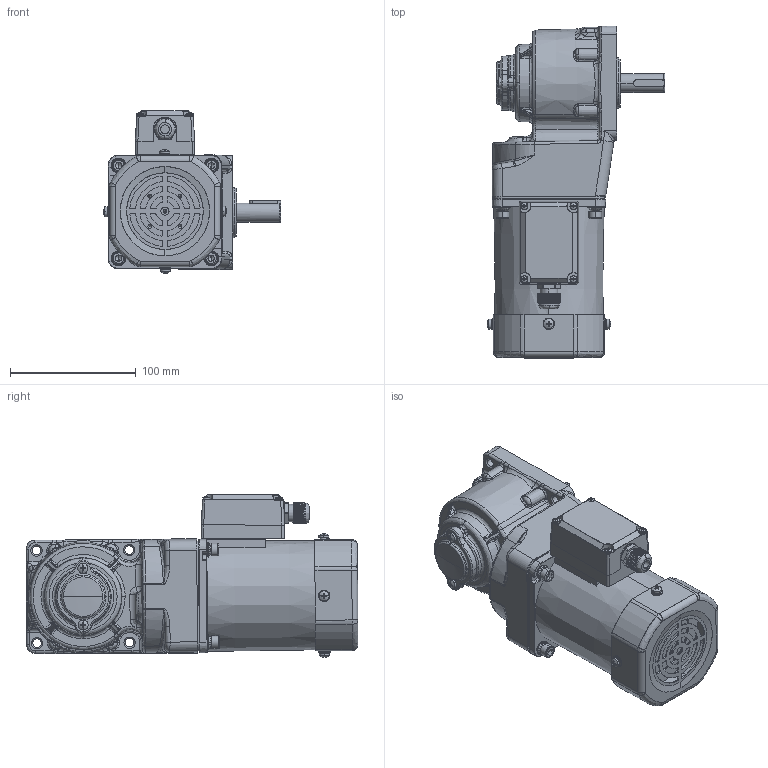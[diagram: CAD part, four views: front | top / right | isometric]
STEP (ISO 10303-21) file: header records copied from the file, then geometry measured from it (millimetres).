
FILE_DESCRIPTION (( 'STEP AP203' ), '1' );
FILE_NAME ('5RK60GU-CFT(5GU3RT-180RT)ÐÂ.STEP', '2023-08-17T07:17:44', ( 'Windows User' ), ( 'P R C' ), 'SwSTEP 2.0', 'SolidWorks 2019', '' );
FILE_SCHEMA (( 'CONFIG_CONTROL_DESIGN' ));
Length unit declared in the file: millimetre
Products named in the file (10): 5RK60GU-CFT(5GU3RT-180RT)陔(2)^5RK60GU-CFT(5GU3RT-180RT)陔; 90__________^5RK60GU-CFT(5GU3RT-180RT)陔(2)_5RK60GU-CFT(5GU3RT-180RT)陔; 90____^5RK60GU-CFT(5GU3RT-180RT)陔(2)_5RK60GU-CFT(5GU3RT-180RT)陔; ZD-5GU50RC-505-003______^5RK60GU-CFT(5GU3RT-180RT)陔(2)_5RK60GU-CFT(5GU3RT-180RT)陔; 5RK60GU-CFT(5GU3RT-180RT)陔; cross recessed pan head screws gb_GB_CROSS_SCREWS_TYPE1 M4X6-6  H type-N^5RK60GU-CFT(5GU3RT-180RT)ÐÂ(2)_5RK60GU-CFT(5GU3RT-180RT)ÐÂ; 5RK60GU-CFT(5GU3RT-180RT)^5RK60GU-CFT(5GU3RT-180RT)ÐÂ(2)_5RK60GU-CFT(5GU3RT-180RT)ÐÂ; zd-5gu-50rc-504-001m#________ 2021-12-07 - ____^5RK60GU-CFT(5GU3RT-180RT)ÐÂ(2)_5RK60GU-CFT(5GU3RT-180RT)ÐÂ; hexagon socket head cap screws gb_GB_FASTENER_SCREWS_HSHCS M5X12-N^5RK60GU-CFT(5GU3RT-180RT)ÐÂ(2)_5RK60GU-CFT(5GU3RT-180RT)ÐÂ; 90RT____________^5RK60GU-CFT(5GU3RT-180RT)陔(2)_5RK60GU-CFT(5GU3RT-180RT)陔
Assembly tree (13 placements, depth 3):
  5RK60GU-CFT(5GU3RT-180RT)陔
    5RK60GU-CFT(5GU3RT-180RT)陔(2)^5RK60GU-CFT(5GU3RT-180RT)陔
      zd-5gu-50rc-504-001m#________ 2021-12-07 - ____^5RK60GU-CFT(5GU3RT-180RT)ÐÂ(2)_5RK60GU-CFT(5GU3RT-180RT)ÐÂ
      90__________^5RK60GU-CFT(5GU3RT-180RT)陔(2)_5RK60GU-CFT(5GU3RT-180RT)陔
      90____^5RK60GU-CFT(5GU3RT-180RT)陔(2)_5RK60GU-CFT(5GU3RT-180RT)陔
      ZD-5GU50RC-505-003______^5RK60GU-CFT(5GU3RT-180RT)陔(2)_5RK60GU-CFT(5GU3RT-180RT)陔
      90RT____________^5RK60GU-CFT(5GU3RT-180RT)陔(2)_5RK60GU-CFT(5GU3RT-180RT)陔
      hexagon socket head cap screws gb_GB_FASTENER_SCREWS_HSHCS M5X12-N^5RK60GU-CFT(5GU3RT-180RT)ÐÂ(2)_5RK60GU-CFT(5GU3RT-180RT)ÐÂ  x4
      cross recessed pan head screws gb_GB_CROSS_SCREWS_TYPE1 M4X6-6  H type-N^5RK60GU-CFT(5GU3RT-180RT)ÐÂ(2)_5RK60GU-CFT(5GU3RT-180RT)ÐÂ  x2
      5RK60GU-CFT(5GU3RT-180RT)^5RK60GU-CFT(5GU3RT-180RT)ÐÂ(2)_5RK60GU-CFT(5GU3RT-180RT)ÐÂ
Bounding box: 141.06 x 263.46 x 129.18 mm (x, y, z)
Volume: 1631166.6 mm3; surface area: 222603.2 mm2
Topology: 49 solids, 50 shells, 2956 faces, 7366 edges, 4443 vertices
Faces by surface type: cylinder 823, plane 792, cone 684, bspline 554, torus 93, sphere 10
Entity records: 116832 total; most frequent: CARTESIAN_POINT 52479, ORIENTED_EDGE 13974, DIRECTION 12367, EDGE_CURVE 6987, AXIS2_PLACEMENT_3D 4928, VERTEX_POINT 4301, EDGE_LOOP 3018, FACE_OUTER_BOUND 2856
